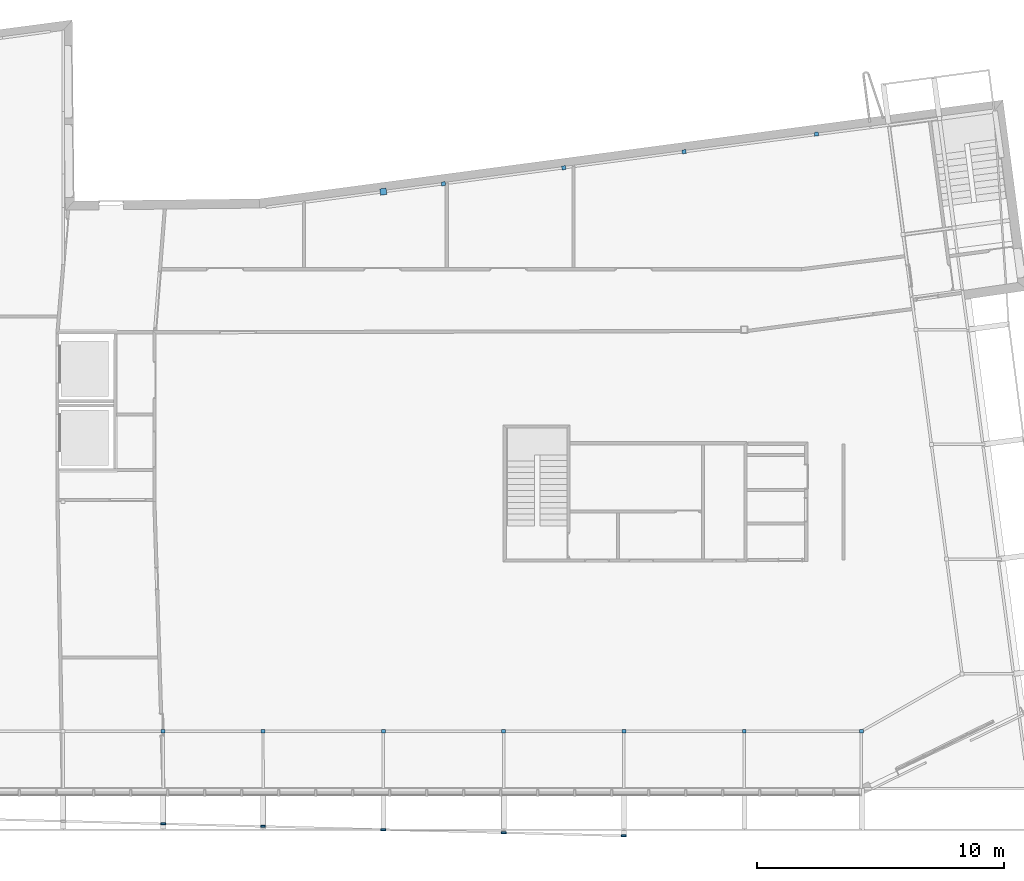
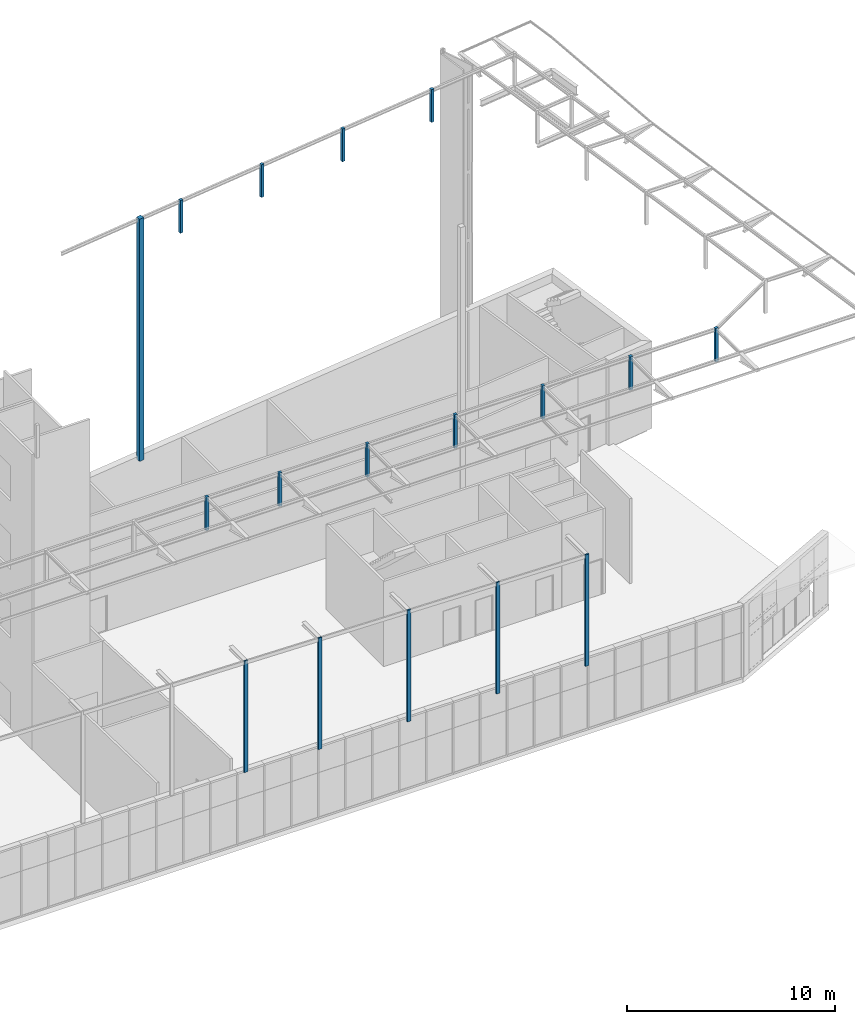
# One storey, part 3 of 40: 17 columns.
"""IFC2X3 building model written with IfcOpenShell, lengths in metres."""

import ifcopenshell
import ifcopenshell.guid

model = None  # the IFC model being written
_history = None  # IfcOwnerHistory: only IFC2X3 demands one
_inside = {}  # id of a spatial element -> (the spatial element, [elements in it])
_under = {}  # id of a project, library or spatial element -> (it, [spatial elements below it])
_declared = {}  # id of a project -> (the project, [libraries it declares])
_typed = {}  # id of a type object -> (the type object, [elements of that type])
_made_of = {}  # id of a material, layer set ... -> (it, [elements and type objects made of it])


def new_model(schema):
    """Start an empty IFC model of exactly this schema.

    Asked for "IFC4X3", IfcOpenShell would pick the latest addendum, in which some entities
    have other attributes; the version numbers below select the first issue.
    IFC2X3 requires an IfcOwnerHistory on every rooted entity: one is made here for all.
    """
    global model, _history
    if schema == "IFC4X3":
        model = ifcopenshell.file(schema_version=(4, 3, 0, 0))
    else:
        model = ifcopenshell.file(schema=schema)
    _inside.clear()
    _under.clear()
    _declared.clear()
    _typed.clear()
    _made_of.clear()
    _history = None
    if model.schema == "IFC2X3":
        org = make("IfcOrganization", Name="unknown")
        user = make(
            "IfcPersonAndOrganization",
            ThePerson=make("IfcPerson", FamilyName="unknown"),
            TheOrganization=org,
        )
        app = make(
            "IfcApplication",
            ApplicationDeveloper=org,
            Version="unknown",
            ApplicationFullName="unknown",
            ApplicationIdentifier="unknown",
        )
        _history = make(
            "IfcOwnerHistory",
            OwningUser=user,
            OwningApplication=app,
            ChangeAction="ADDED",
            CreationDate=0,
        )
    return model


def make(cls, **values):
    """One entity of the class cls with the attributes given. An attribute that is None is left unset."""
    return model.create_entity(
        cls, **{name: value for name, value in values.items() if value is not None}
    )


def entity(cls, *values):
    """Any entity or typed value of the class cls, its attributes in the order of the schema. None: left unset."""
    e = model.create_entity(cls)
    for i, value in enumerate(values):
        if value is not None:
            e[i] = value
    return e


def rooted(cls, **values):
    """An entity with a GlobalId (a new one), such as an element, a storey or a relation."""
    return make(cls, GlobalId=ifcopenshell.guid.new(), OwnerHistory=_history, **values)


def si_unit(unit_type, name, prefix=None):
    """IfcSIUnit, for example si_unit("LENGTHUNIT", "METRE", prefix="MILLI")."""
    return make("IfcSIUnit", UnitType=unit_type, Prefix=prefix, Name=name)


def converted_unit(unit_type, name, factor, base, dimensions=None, offset=None):
    """IfcConversionBasedUnit, such as the inch: factor (a typed value) times the base unit."""
    return make(
        "IfcConversionBasedUnit"
        if offset is None
        else "IfcConversionBasedUnitWithOffset",
        ConversionOffset=offset,
        Dimensions=None
        if dimensions is None
        else entity("IfcDimensionalExponents", *dimensions),
        UnitType=unit_type,
        Name=name,
        ConversionFactor=make(
            "IfcMeasureWithUnit", ValueComponent=factor, UnitComponent=base
        ),
    )


def money_unit(currency):
    """IfcMonetaryUnit."""
    return make("IfcMonetaryUnit", Currency=currency)


def assignment(units):
    """IfcUnitAssignment: the units of a project."""
    return None if units is None else make("IfcUnitAssignment", Units=units)


def point(xyz):
    """IfcCartesianPoint."""
    return None if xyz is None else make("IfcCartesianPoint", Coordinates=xyz)


def direction(xyz):
    """IfcDirection."""
    return None if xyz is None else make("IfcDirection", DirectionRatios=xyz)


def frame(location, z_axis=None, x_axis=None):
    """IfcAxis2Placement3D, a coordinate frame: its origin and axes. An axis left out is left unset."""
    return make(
        "IfcAxis2Placement3D",
        Location=point(location),
        Axis=direction(z_axis),
        RefDirection=direction(x_axis),
    )


def frame_2d(location, x_axis=None):
    """IfcAxis2Placement2D, a coordinate frame in the plane: its origin and x axis."""
    return make(
        "IfcAxis2Placement2D", Location=point(location), RefDirection=direction(x_axis)
    )


def origin_with_axes():
    """The frame at (0, 0, 0) with the z axis (0, 0, 1) and the x axis (1, 0, 0) written out."""
    return frame((0.0, 0.0, 0.0), z_axis=(0.0, 0.0, 1.0), x_axis=(1.0, 0.0, 0.0))


def origin_2d_with_axis():
    """The frame at (0, 0) in the plane with the x axis (1, 0) written out."""
    return frame_2d((0.0, 0.0), x_axis=(1.0, 0.0))


def place(relative_to, where):
    """IfcLocalPlacement: puts the frame where relative to a parent placement (None: the world)."""
    return make(
        "IfcLocalPlacement", PlacementRelTo=relative_to, RelativePlacement=where
    )


def context(
    kind, dimensions, precision=None, world=None, true_north=None, identifier=None
):
    """IfcGeometricRepresentationContext, for example the 3D "Model" context."""
    return make(
        "IfcGeometricRepresentationContext",
        ContextIdentifier=identifier,
        ContextType=kind,
        CoordinateSpaceDimension=dimensions,
        Precision=precision,
        WorldCoordinateSystem=world,
        TrueNorth=true_north,
    )


def subcontext(parent, identifier, kind, view, scale=None):
    """IfcGeometricRepresentationSubContext, for example "Body" below "Model"."""
    return make(
        "IfcGeometricRepresentationSubContext",
        ContextIdentifier=identifier,
        ContextType=kind,
        ParentContext=parent,
        TargetScale=scale,
        TargetView=view,
    )


def project(units=None, contexts=None):
    """IfcProject with its units and contexts."""
    return rooted(
        "IfcProject",
        Name="project",
        RepresentationContexts=contexts,
        UnitsInContext=assignment(units),
    )


def spatial(cls, under=None, at=None, **own):
    """A site, building, storey or space (cls), placed at a placement, below another one or the project."""
    s = rooted(cls, ObjectPlacement=at, **own)
    if under is not None:
        _under.setdefault(under.id(), (under, []))[1].append(s)
    return s


def profile(cls, at=None, kind="AREA", **sizes):
    """A parametric profile (cls). Its sizes go by their IFC names, for example OverallWidth=200.0."""
    return make(cls, ProfileType=kind, Position=at, **sizes)


def rectangle(**sizes):
    """IfcRectangleProfileDef."""
    return profile("IfcRectangleProfileDef", **sizes)


def extrude(swept, where, along, depth):
    """IfcExtrudedAreaSolid: the profile swept, set in the frame where, extruded along a direction by depth."""
    return make(
        "IfcExtrudedAreaSolid",
        SweptArea=swept,
        Position=where,
        ExtrudedDirection=direction(along),
        Depth=depth,
    )


def shape(context_of_items, identifier, shape_type, items):
    """IfcShapeRepresentation: the items that make up one representation, for example the "Body"."""
    return make(
        "IfcShapeRepresentation",
        ContextOfItems=context_of_items,
        RepresentationIdentifier=identifier,
        RepresentationType=shape_type,
        Items=items,
    )


def material(Name=None, Category=None):
    """IfcMaterial."""
    return make("IfcMaterial", Name=Name, Category=Category)


def made_of(thing, what):
    """Note that an element or type object is made of a material, layer set ...; save() writes the relation."""
    if what is not None:
        _made_of.setdefault(what.id(), (what, []))[1].append(thing)
    return thing


def type_object(cls, material=None, **own):
    """A type object (cls), such as IfcWallType, which elements share."""
    return made_of(rooted(cls, **own), material)


def element(
    cls,
    number,
    at=None,
    inside=None,
    cuts=None,
    type_object=None,
    material=None,
    context=None,
    identifier="Body",
    shape_type=None,
    held_by="IfcProductDefinitionShape",
    body=None,
    shapes=None,
    **own,
):
    """One element of the class cls, such as IfcWall. Its Tag is "e" and its number.

    at: its placement. inside: the storey or other place that contains it. cuts: it is an
    opening in that element (IfcRelVoidsElement). A single representation is given by context,
    identifier, shape_type and body (its items); several are given by shapes. held_by: the class
    of the entity that holds the representations. save() writes the other relations.
    """
    e = rooted(cls, Tag="e%d" % number, ObjectPlacement=at, **own)
    if body is not None:
        shapes = [shape(context, identifier, shape_type, body)]
    if shapes is not None:
        e.Representation = make(held_by, Representations=shapes)
    if inside is not None:
        _inside.setdefault(inside.id(), (inside, []))[1].append(e)
    if cuts is not None:
        rooted(
            "IfcRelVoidsElement", RelatingBuildingElement=cuts, RelatedOpeningElement=e
        )
    if type_object is not None:
        _typed.setdefault(type_object.id(), (type_object, []))[1].append(e)
    return made_of(e, material)


def aggregate(whole, parts):
    """IfcRelAggregates: a whole, such as a stair, and the parts it consists of."""
    return rooted("IfcRelAggregates", RelatingObject=whole, RelatedObjects=parts)


def save(model, path):
    """Write the relations noted so far, then the file.

    IfcRelAggregates (storeys below a building ...), IfcRelContainedInSpatialStructure (elements
    in a storey), IfcRelDefinesByType, IfcRelAssociatesMaterial and IfcRelDeclares: one each for
    every whole, place, type object, material and project.
    """
    for whole, parts in _under.values():
        aggregate(whole, parts)
    for where, things in _inside.values():
        rooted(
            "IfcRelContainedInSpatialStructure",
            RelatedElements=things,
            RelatingStructure=where,
        )
    for kind, things in _typed.values():
        rooted("IfcRelDefinesByType", RelatedObjects=things, RelatingType=kind)
    for what, things in _made_of.values():
        rooted("IfcRelAssociatesMaterial", RelatedObjects=things, RelatingMaterial=what)
    for by, libraries in _declared.values():
        rooted("IfcRelDeclares", RelatingContext=by, RelatedDefinitions=libraries)
    model.write(path)


model = new_model("IFC2X3")

# Units and contexts
model_context = context("Model", 3, precision=1e-05, world=origin_with_axes(), true_north=direction((0.0, 1.0)))
body_context = subcontext(model_context, "Body", "Model", "MODEL_VIEW")
ifc_project = project(units=[si_unit("LENGTHUNIT", "METRE"), si_unit("AREAUNIT", "SQUARE_METRE"), si_unit("VOLUMEUNIT", "CUBIC_METRE"), converted_unit("PLANEANGLEUNIT", "DEGREE", entity("IfcPlaneAngleMeasure", 0.0174532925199), si_unit("PLANEANGLEUNIT", "RADIAN"), dimensions=[0, 0, 0, 0, 0, 0, 0]), si_unit("SOLIDANGLEUNIT", "STERADIAN"), money_unit("EUR"), converted_unit("TIMEUNIT", "Year", entity("IfcTimeMeasure", 31556926.0), si_unit("TIMEUNIT", "SECOND"), dimensions=[0, 0, 0, 0, 0, 0, 0]), si_unit("MASSUNIT", "GRAM"), si_unit("THERMODYNAMICTEMPERATUREUNIT", "DEGREE_CELSIUS"), si_unit("LUMINOUSINTENSITYUNIT", "LUMEN")], contexts=[model_context])

# Site, building, storey
site_placement = place(None, origin_with_axes())
site = spatial("IfcSite", under=ifc_project, at=site_placement, Name="Undefined", CompositionType="ELEMENT")
building_placement = place(site_placement, origin_with_axes())
building = spatial("IfcBuilding", under=site, at=building_placement, Name="Undefined", CompositionType="ELEMENT")
storey_placement = place(building_placement, origin_with_axes())
storey = spatial("IfcBuildingStorey", under=building, at=storey_placement, Name="Rez de chauss\x8ee", CompositionType="ELEMENT", Elevation=0.0)

# Columns
ifc_material = material(Name="STEEL/S235JRG2 3386696625")
column_type_1 = type_object("IfcColumnType", Name="HEB160", PredefinedType="NOTDEFINED")
for number, where, z_axis, x_axis, name in (
    (1, (49.5374998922, 25.1584199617, 17.2), (0.0, 0.0, 1.0), (0.132256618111, -0.991215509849, 0.0), "Column"),
    (2, (44.6624997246, 24.5109171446, 17.2), (0.0, 0.0, 1.0), (0.131664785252, -0.991294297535, 0.0), "Column"),
):
    element("IfcColumn", number, at=place(storey_placement, frame(where, z_axis=z_axis, x_axis=x_axis)), inside=storey, type_object=column_type_1, material=ifc_material, Name=name, ObjectType="COLUMN", context=body_context, shape_type="SweptSolid", body=[
        extrude(rectangle(XDim=0.16, YDim=0.16, at=origin_2d_with_axis()), origin_with_axes(), (0.0, 0.0, 1.0), 1.925),
    ])
for number, where, z_axis, x_axis, name in (
    (3, (42.225, 2.32500000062, 17.16), (0.0, 0.0, 1.0), (0.0, -1.0, 0.0), "Column"),
    (4, (47.0999999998, 2.32500000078, 17.16), (0.0, 0.0, 1.0), (0.0, -1.0, 0.0), "Column"),
):
    element("IfcColumn", number, at=place(storey_placement, frame(where, z_axis=z_axis, x_axis=x_axis)), inside=storey, type_object=column_type_1, material=ifc_material, Name=name, ObjectType="COLUMN", context=body_context, shape_type="SweptSolid", body=[
        extrude(rectangle(XDim=0.16, YDim=0.16, at=origin_2d_with_axis()), origin_with_axes(), (0.0, 0.0, 1.0), 1.96500000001),
    ])
for number, where, z_axis, x_axis, name in (
    (5, (54.4124998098, 25.8088849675, 17.2), (0.0, 0.0, 1.0), (0.144601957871, -0.98948990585, 0.0), "Column"),
    (6, (59.7765084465, 26.5242657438, 17.2), (0.0, 0.0, 1.0), (0.127469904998, -0.991842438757, 0.0), "Column"),
):
    element("IfcColumn", number, at=place(storey_placement, frame(where, z_axis=z_axis, x_axis=x_axis)), inside=storey, type_object=column_type_1, material=ifc_material, Name=name, ObjectType="COLUMN", context=body_context, shape_type="SweptSolid", body=[
        extrude(rectangle(XDim=0.16, YDim=0.16, at=origin_2d_with_axis()), origin_with_axes(), (0.0, 0.0, 1.0), 1.925),
    ])
column_1_placement = place(storey_placement, frame((61.5999999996, 2.32500000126, 17.16), z_axis=(0.0, 0.0, 1.0), x_axis=(0.0, -1.0, 0.0)))
element("IfcColumn", 7, at=column_1_placement, inside=storey, type_object=column_type_1, material=ifc_material, Name="Column", ObjectType="COLUMN", context=body_context, shape_type="SweptSolid", body=[
    extrude(rectangle(XDim=0.16, YDim=0.16, at=origin_2d_with_axis()), origin_with_axes(), (0.0, 0.0, 1.0), 1.96500000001),
])
for number, where, z_axis, x_axis, name in (
    (8, (37.3499991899, 2.32500000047, 17.16), (0.0, 0.0, 1.0), (0.0, -1.0, 0.0), "Column"),
    (9, (33.3000000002, 2.3250000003, 17.16), (0.0, 0.0, 1.0), (0.0, -1.0, 0.0), "Column"),
):
    element("IfcColumn", number, at=place(storey_placement, frame(where, z_axis=z_axis, x_axis=x_axis)), inside=storey, type_object=column_type_1, material=ifc_material, Name=name, ObjectType="COLUMN", context=body_context, shape_type="SweptSolid", body=[
        extrude(rectangle(XDim=0.16, YDim=0.16, at=origin_2d_with_axis()), origin_with_axes(), (0.0, 0.0, 1.0), 1.96500000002),
    ])
for number, where, z_axis, x_axis, name in (
    (10, (56.8499999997, 2.32500000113, 17.16), (0.0, 0.0, 1.0), (0.0, -1.0, 0.0), "Column"),
    (11, (51.9749999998, 2.32500000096, 17.16), (0.0, 0.0, 1.0), (0.0, -1.0, 0.0), "Column"),
):
    element("IfcColumn", number, at=place(storey_placement, frame(where, z_axis=z_axis, x_axis=x_axis)), inside=storey, type_object=column_type_1, material=ifc_material, Name=name, ObjectType="COLUMN", context=body_context, shape_type="SweptSolid", body=[
        extrude(rectangle(XDim=0.16, YDim=0.16, at=origin_2d_with_axis()), origin_with_axes(), (0.0, 0.0, 1.0), 1.96500000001),
    ])
column_type_2 = type_object("IfcColumnType", Name="HEB260", PredefinedType="NOTDEFINED")
column_2_placement = place(storey_placement, frame((42.2249995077, 24.1886401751, 4.9), z_axis=(0.0, 0.0, 1.0), x_axis=(-0.99121554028, -0.132256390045, 0.0)))
element("IfcColumn", 12, at=column_2_placement, inside=storey, type_object=column_type_2, material=ifc_material, Name="Column", ObjectType="COLUMN", context=body_context, shape_type="SweptSolid", body=[
    extrude(rectangle(XDim=0.26, YDim=0.26, at=origin_2d_with_axis()), origin_with_axes(), (0.0, 0.0, 1.0), 14.225),
])
column_type_3 = type_object("IfcColumnType", Name="UPE200", PredefinedType="NOTDEFINED")
for number, where, z_axis, x_axis, name in (
    (13, (51.9749947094, -1.91138228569, 5.2), (0.0, 0.0, 1.0), (0.0, 1.0, 0.0), "Column"),
    (14, (33.2999999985, -1.4242648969, 5.2), (0.0, 0.0, 1.0), (0.0, 1.0, 0.0), "Column"),
    (15, (42.2250033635, -1.65824539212, 5.2), (0.0, 0.0, 1.0), (0.0, 1.0, 0.0), "Column"),
    (16, (47.0999999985, -1.78448235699, 5.2), (0.0, 0.0, 1.0), (0.0, 1.0, 0.0), "Column"),
    (17, (37.349998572, -1.53266610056, 5.2), (0.0, 0.0, 1.0), (0.0, 1.0, 0.0), "Column"),
):
    element("IfcColumn", number, at=place(storey_placement, frame(where, z_axis=z_axis, x_axis=x_axis)), inside=storey, type_object=column_type_3, material=ifc_material, Name=name, ObjectType="COLUMN", context=body_context, shape_type="SweptSolid", body=[
        extrude(rectangle(XDim=0.08, YDim=0.2, at=origin_2d_with_axis()), origin_with_axes(), (0.0, 0.0, 1.0), 6.55),
    ])

save(model, "model.ifc")
